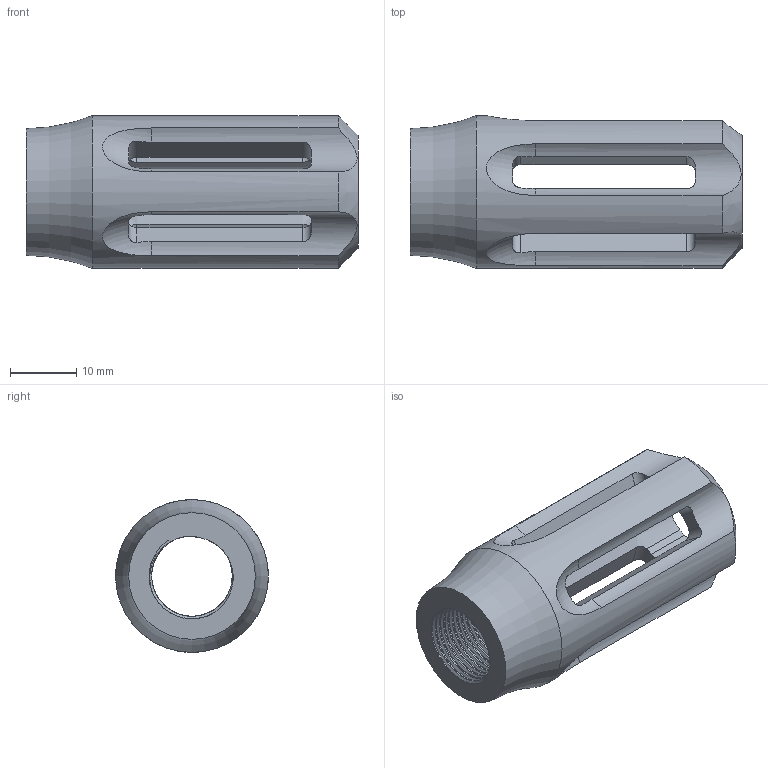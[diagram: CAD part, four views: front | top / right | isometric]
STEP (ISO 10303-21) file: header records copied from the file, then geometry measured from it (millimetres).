
FILE_DESCRIPTION(/* description */ (''),/* implementation_level */ '2;1');
FILE_NAME(/* name */ 'D:/Pew Pews/FGC-9_MkII_Stingray_Edition/Stingray Edition/.step files/6 - Accessories/Flash Hider.step',/* time_stamp */ '2022-05-12T11:06:30-06:00',/* author */ (''),/* organization */ (''),/* preprocessor_version */ 'ST-DEVELOPER v18.1',/* originating_system */ 'Autodesk Translation Framework v10.10.0.1391',/* authorisation */ '');
FILE_SCHEMA (('AUTOMOTIVE_DESIGN { 1 0 10303 214 3 1 1 }'));
Length unit declared in the file: millimetre
Products named in the file (1): Compensator
Bounding box: 50 x 23 x 23 mm (x, y, z)
Volume: 8896.3 mm3; surface area: 5911 mm2
Topology: 1 solids, 1 shells, 119 faces, 376 edges, 250 vertices
Faces by surface type: cylinder 63, bspline 27, plane 22, torus 6, cone 1
Full cylindrical faces by diameter (mm): 12.9 x10, 23 x1
Entity records: 8538 total; most frequent: CARTESIAN_POINT 5581, ORIENTED_EDGE 752, DIRECTION 410, EDGE_CURVE 376, VERTEX_POINT 250, B_SPLINE_CURVE_WITH_KNOTS 202, AXIS2_PLACEMENT_3D 143, LINE 124
